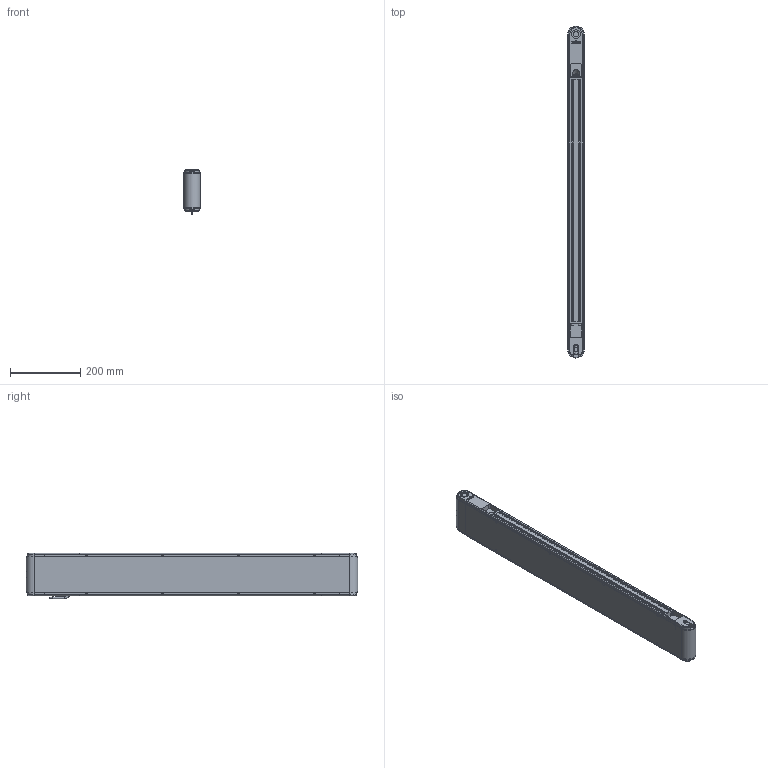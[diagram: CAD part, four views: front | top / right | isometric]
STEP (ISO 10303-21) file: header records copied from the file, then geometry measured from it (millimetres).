
FILE_DESCRIPTION(/* description */ (''),/* implementation_level */ '2;1');
FILE_NAME(/* name */ 'G:\DATEN\CAD\Förderband\Marketing\3D-Modelle (Standard)\FR-40-120\FR-40-120-900-K.stp',/* time_stamp */ '2019-05-08T08:34:39+02:00',/* author */ ('melanie.ochs'),/* organization */ (''),/* preprocessor_version */ 'ST-DEVELOPER v17',/* originating_system */ 'Autodesk Inventor 2019',/* authorisation */ '');
FILE_SCHEMA (('CONFIG_CONTROL_DESIGN'));
Length unit declared in the file: centimetre
Products named in the file (1): FR-40-120-900-K
Bounding box: 46.6 x 946.6 x 128.53 mm (x, y, z)
Volume: 1901187.1 mm3; surface area: 909810 mm2
Topology: 6 solids, 29 shells, 1045 faces, 2853 edges, 1906 vertices
Faces by surface type: plane 535, cylinder 289, bspline 122, cone 74, torus 25
Full cylindrical faces by diameter (mm): 2 x2, 4 x6, 4.3 x4, 4.64 x2, 4.917 x3, 5 x11, 5.5 x8, 6 x6, 6.5 x1, 6.647 x3, 8 x4, 8.3 x8, 8.5 x8, 8.773 x1, 10 x1, 11 x1, 12 x4, 15 x4, 20 x4, 25 x2, 28 x4
Entity records: 35674 total; most frequent: CARTESIAN_POINT 8438, ORIENTED_EDGE 5682, DIRECTION 5159, EDGE_CURVE 2841, VERTEX_POINT 1906, AXIS2_PLACEMENT_3D 1793, LINE 1573, VECTOR 1573
